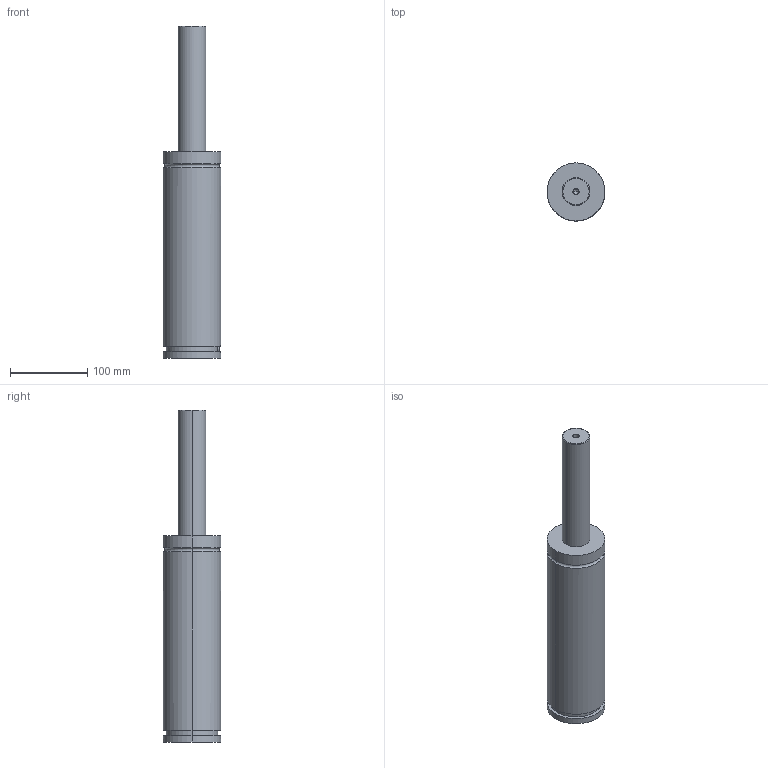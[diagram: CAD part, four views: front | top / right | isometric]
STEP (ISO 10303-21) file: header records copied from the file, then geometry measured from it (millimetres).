
FILE_DESCRIPTION(/* description */ (''),/* implementation_level */ '2;1');
FILE_NAME(/* name */ '3d_gse75-160_03854_r00.stp',/* time_stamp */ '2011-01-10T14:15:18+09:00',/* author */ ('MISUMI'),/* organization */ (''),/* preprocessor_version */ 'ST-DEVELOPER v11',/* originating_system */ 'UGS - NX 5.0',/* authorisation */ '');
FILE_SCHEMA (('CONFIG_CONTROL_DESIGN'));
Length unit declared in the file: millimetre
Products named in the file (1): 3d_gse75-160_03854_r00
Bounding box: 75 x 75 x 430 mm (x, y, z)
Volume: 1332287.9 mm3; surface area: 94802.8 mm2
Topology: 1 solids, 1 shells, 75 faces, 161 edges, 103 vertices
Faces by surface type: cylinder 34, plane 27, cone 10, torus 4
Entity records: 2145 total; most frequent: DIRECTION 393, CARTESIAN_POINT 360, ORIENTED_EDGE 318, AXIS2_PLACEMENT_3D 164, EDGE_CURVE 159, VERTEX_POINT 103, EDGE_LOOP 92, CIRCLE 88
